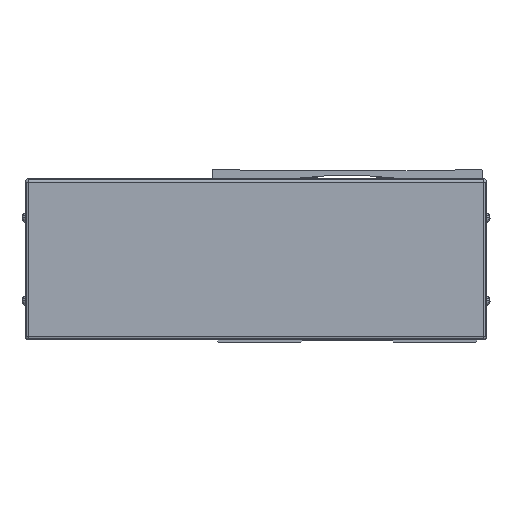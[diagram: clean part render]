
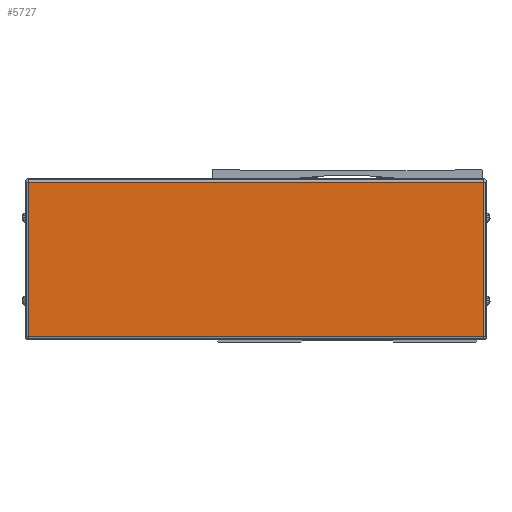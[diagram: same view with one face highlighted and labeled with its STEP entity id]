
A CAD part, front view. The second image highlights one B-rep face of the part: STEP entity #5727.
In plain terms, the highlighted planar face has unit normal (0, -1, 0).
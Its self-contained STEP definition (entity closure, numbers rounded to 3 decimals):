
#5727=ADVANCED_FACE('',(#12109),#12110,.F.);
#12109=FACE_OUTER_BOUND('',#20263,.T.);
#12110=PLANE('',#20264);
#20263=EDGE_LOOP('',(#38178,#38179,#38180,#38181));
#20264=AXIS2_PLACEMENT_3D('',#38182,#38183,#38184);
#38178=ORIENTED_EDGE('',*,*,#51351,.T.);
#38179=ORIENTED_EDGE('',*,*,#51352,.T.);
#38180=ORIENTED_EDGE('',*,*,#51353,.T.);
#38181=ORIENTED_EDGE('',*,*,#51354,.T.);
#38182=CARTESIAN_POINT('',(-655.,252.222,-2.));
#38183=DIRECTION('',(0.,1.0,0.));
#38184=DIRECTION('',(-1.0,0.,0.));
#51351=EDGE_CURVE('',#52892,#63265,#63266,.T.);
#51352=EDGE_CURVE('',#63265,#63267,#63268,.T.);
#51353=EDGE_CURVE('',#63267,#63269,#63270,.T.);
#51354=EDGE_CURVE('',#63269,#52892,#63271,.T.);
#52892=VERTEX_POINT('',#65046);
#63265=VERTEX_POINT('',#80200);
#63266=LINE('',#80201,#80202);
#63267=VERTEX_POINT('',#80203);
#63268=LINE('',#80204,#80205);
#63269=VERTEX_POINT('',#80206);
#63270=LINE('',#80207,#80208);
#63271=LINE('',#80209,#80210);
#65046=CARTESIAN_POINT('',(-517.9,252.222,44.5));
#80200=CARTESIAN_POINT('',(-792.1,252.222,44.5));
#80201=CARTESIAN_POINT('',(-655.,252.222,44.5));
#80202=VECTOR('',#90529,10.0);
#80203=CARTESIAN_POINT('',(-792.1,252.222,-48.5));
#80204=CARTESIAN_POINT('',(-792.1,252.222,-2.));
#80205=VECTOR('',#90530,10.0);
#80206=CARTESIAN_POINT('',(-517.9,252.222,-48.5));
#80207=CARTESIAN_POINT('',(-655.,252.222,-48.5));
#80208=VECTOR('',#90531,10.0);
#80209=CARTESIAN_POINT('',(-517.9,252.222,-2.));
#80210=VECTOR('',#90532,10.0);
#90529=DIRECTION('',(-1.0,0.,0.));
#90530=DIRECTION('',(0.,0.,-1.0));
#90531=DIRECTION('',(1.0,0.,0.));
#90532=DIRECTION('',(0.,0.,1.0));
